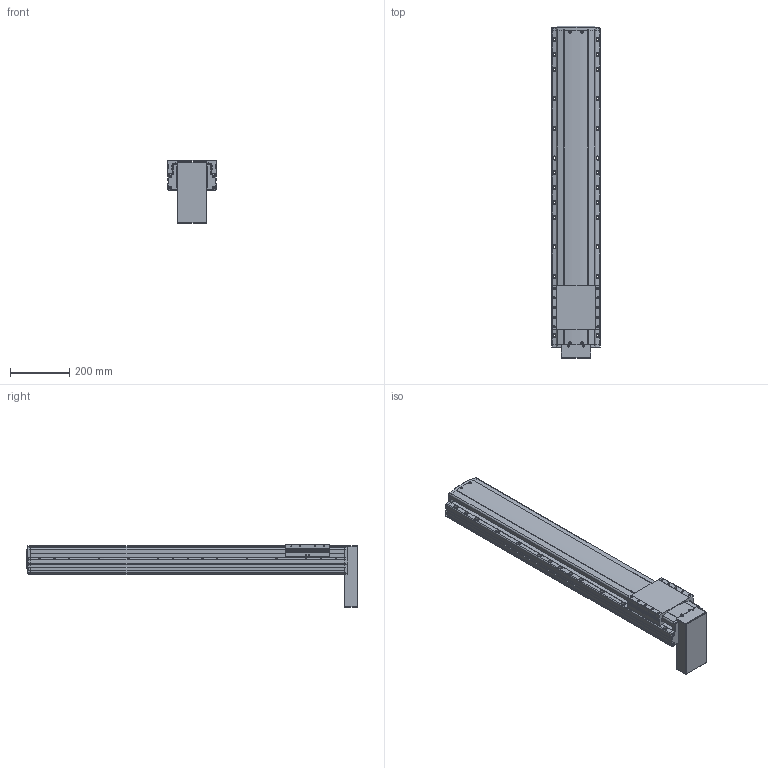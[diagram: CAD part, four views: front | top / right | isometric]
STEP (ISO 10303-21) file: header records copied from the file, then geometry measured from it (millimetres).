
FILE_DESCRIPTION(('STEP AP214'),'1');
FILE_NAME('Z:/Web/3D/PSA165/STP/PSA165-800 (3D)/PSA165ㅁㅁ-800PB.stp','2014-06-23T11:58:20',(' '),(' '),'Spatial InterOp 3D',' ',' ');
FILE_SCHEMA(('automotive_design'));
Length unit declared in the file: millimetre
Products named in the file (29): 스크루 : Round - M4.0 x 12.0; RRCV-PA160; BASE; 스크루 : Round - M4.0 x 10.0; RN15; Screw 20; SLIDE; FRCV; MTPL CV- PB; 스크루 : Round - M3.0 x 6.0; 1; 2
Bounding box: 165 x 1120.8 x 215.96 mm (x, y, z)
Volume: 15781726.7 mm3; surface area: 1016973.2 mm2
Topology: 29 solids, 29 shells, 2223 faces, 5960 edges, 3792 vertices
Faces by surface type: plane 1182, cylinder 726, cone 222, sphere 52, bspline 25, torus 16
Entity records: 90425 total; most frequent: CARTESIAN_POINT 16150, DIRECTION 11851, ORIENTED_EDGE 11612, EDGE_CURVE 5806, AXIS2_PLACEMENT_3D 4033, VERTEX_POINT 3792, LINE 3785, VECTOR 3785
